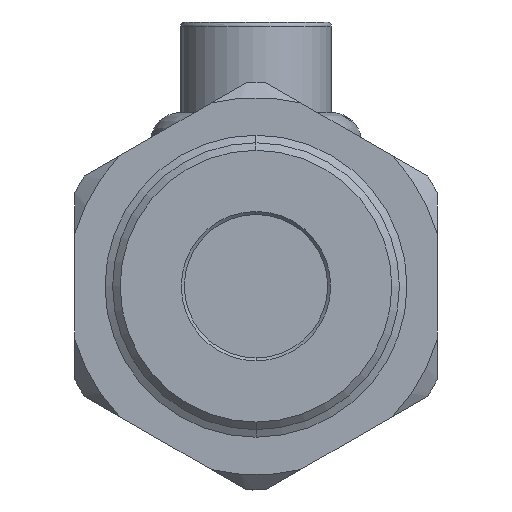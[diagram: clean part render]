
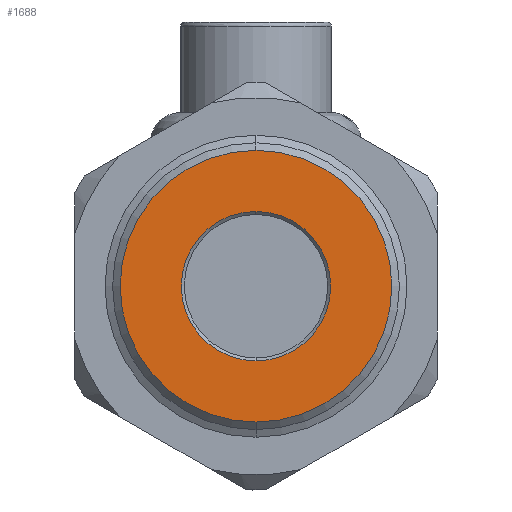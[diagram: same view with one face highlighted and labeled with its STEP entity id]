
A CAD part, front view. The second image highlights one B-rep face of the part: STEP entity #1688.
In plain terms, the highlighted planar face has unit normal (0, -1, 0).
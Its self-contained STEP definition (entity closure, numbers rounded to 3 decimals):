
#825 = CIRCLE ( 'NONE', #15278, 4.95 ) ;
#1376 = CARTESIAN_POINT ( 'NONE',  ( -7., -111., -2.5 ) ) ;
#1688 = ADVANCED_FACE ( 'NONE', ( #18013, #12636 ), #6487, .F. ) ;
#1940 = CARTESIAN_POINT ( 'NONE',  ( -16.107, -111., -20.609 ) ) ;
#1960 = CIRCLE ( 'NONE', #17335, 9. ) ;
#2477 = DIRECTION ( 'NONE',  ( 0., 1., 0. ) ) ;
#3023 = AXIS2_PLACEMENT_3D ( 'NONE', #18813, #5115, #21085 ) ;
#3385 = ORIENTED_EDGE ( 'NONE', *, *, #6171, .F. ) ;
#3705 = ORIENTED_EDGE ( 'NONE', *, *, #14584, .F. ) ;
#4272 = DIRECTION ( 'NONE',  ( 0., 0., 1. ) ) ;
#4548 = CARTESIAN_POINT ( 'NONE',  ( -7., -111., -16.45 ) ) ;
#4903 = EDGE_CURVE ( 'NONE', #6403, #29589, #1960, .T. ) ;
#5115 = DIRECTION ( 'NONE',  ( 0., -1., 0. ) ) ;
#6171 = EDGE_CURVE ( 'NONE', #29589, #6403, #13676, .T. ) ;
#6178 = ORIENTED_EDGE ( 'NONE', *, *, #4903, .F. ) ;
#6403 = VERTEX_POINT ( 'NONE', #22900 ) ;
#6487 = PLANE ( 'NONE',  #15463 ) ;
#7960 = EDGE_CURVE ( 'NONE', #26619, #16740, #28906, .T. ) ;
#8241 = DIRECTION ( 'NONE',  ( 0., -1., 0. ) ) ;
#10742 = DIRECTION ( 'NONE',  ( 0., 1., 0. ) ) ;
#12391 = ORIENTED_EDGE ( 'NONE', *, *, #7960, .F. ) ;
#12636 = FACE_OUTER_BOUND ( 'NONE', #21260, .T. ) ;
#13676 = CIRCLE ( 'NONE', #20458, 9. ) ;
#14584 = EDGE_CURVE ( 'NONE', #16740, #26619, #825, .T. ) ;
#15278 = AXIS2_PLACEMENT_3D ( 'NONE', #21887, #8241, #24201 ) ;
#15463 = AXIS2_PLACEMENT_3D ( 'NONE', #1940, #17955, #4272 ) ;
#16149 = CARTESIAN_POINT ( 'NONE',  ( -7., -111., -11.5 ) ) ;
#16740 = VERTEX_POINT ( 'NONE', #28859 ) ;
#17335 = AXIS2_PLACEMENT_3D ( 'NONE', #16149, #2477, #18480 ) ;
#17955 = DIRECTION ( 'NONE',  ( 0., 1., 0. ) ) ;
#18013 = FACE_BOUND ( 'NONE', #23536, .T. ) ;
#18480 = DIRECTION ( 'NONE',  ( 0., 0., 1. ) ) ;
#18813 = CARTESIAN_POINT ( 'NONE',  ( -7., -111., -11.5 ) ) ;
#20458 = AXIS2_PLACEMENT_3D ( 'NONE', #24406, #10742, #26663 ) ;
#21085 = DIRECTION ( 'NONE',  ( 0., 0., -1. ) ) ;
#21260 = EDGE_LOOP ( 'NONE', ( #3385, #6178 ) ) ;
#21887 = CARTESIAN_POINT ( 'NONE',  ( -7., -111., -11.5 ) ) ;
#22900 = CARTESIAN_POINT ( 'NONE',  ( -7., -111., -20.5 ) ) ;
#23536 = EDGE_LOOP ( 'NONE', ( #12391, #3705 ) ) ;
#24201 = DIRECTION ( 'NONE',  ( 0., 0., -1. ) ) ;
#24406 = CARTESIAN_POINT ( 'NONE',  ( -7., -111., -11.5 ) ) ;
#26619 = VERTEX_POINT ( 'NONE', #4548 ) ;
#26663 = DIRECTION ( 'NONE',  ( 0., 0., 1. ) ) ;
#28859 = CARTESIAN_POINT ( 'NONE',  ( -7., -111., -6.55 ) ) ;
#28906 = CIRCLE ( 'NONE', #3023, 4.95 ) ;
#29589 = VERTEX_POINT ( 'NONE', #1376 ) ;
